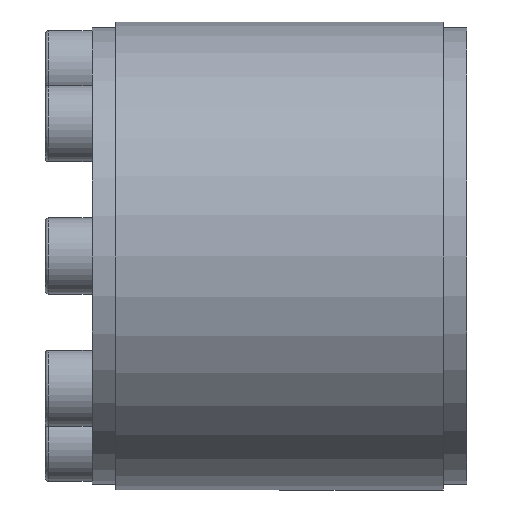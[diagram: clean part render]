
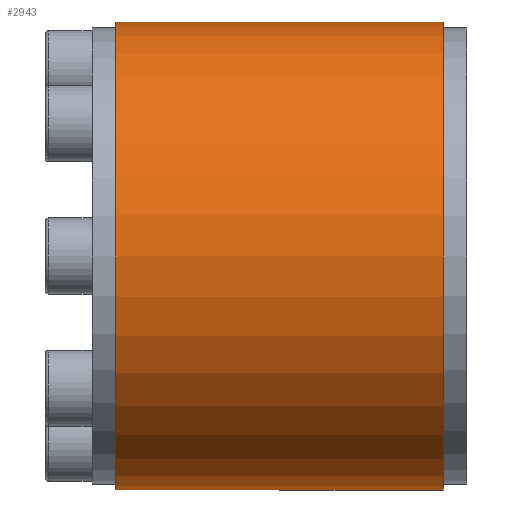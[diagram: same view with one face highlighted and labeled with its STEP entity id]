
A CAD part, left-side view. The second image highlights one B-rep face of the part: STEP entity #2943.
In plain terms, the highlighted cylindrical face has radius 40 mm (diameter 80 mm), a partial arc.
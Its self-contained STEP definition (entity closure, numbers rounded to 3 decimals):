
#12 = DIRECTION ( 'NONE',  ( 0., 0., -1. ) ) ;
#103 = DIRECTION ( 'NONE',  ( 0., -1., 0. ) ) ;
#121 = AXIS2_PLACEMENT_3D ( 'NONE', #610, #103, #2196 ) ;
#202 = ORIENTED_EDGE ( 'NONE', *, *, #903, .F. ) ;
#248 = CARTESIAN_POINT ( 'NONE',  ( 0., 0., 0. ) ) ;
#610 = CARTESIAN_POINT ( 'NONE',  ( 0., 28., 0. ) ) ;
#738 = DIRECTION ( 'NONE',  ( 0., -1., 0. ) ) ;
#787 = DIRECTION ( 'NONE',  ( 0., -1., 0. ) ) ;
#821 = ORIENTED_EDGE ( 'NONE', *, *, #2017, .T. ) ;
#903 = EDGE_CURVE ( 'NONE', #1761, #2764, #1805, .T. ) ;
#1222 = ORIENTED_EDGE ( 'NONE', *, *, #1273, .F. ) ;
#1273 = EDGE_CURVE ( 'NONE', #1825, #1761, #2605, .T. ) ;
#1332 = CARTESIAN_POINT ( 'NONE',  ( 0., 28., 40. ) ) ;
#1487 = DIRECTION ( 'NONE',  ( 0., -1., 0. ) ) ;
#1677 = CARTESIAN_POINT ( 'NONE',  ( 0., 28., -40. ) ) ;
#1698 = EDGE_CURVE ( 'NONE', #1825, #3046, #3055, .T. ) ;
#1761 = VERTEX_POINT ( 'NONE', #3038 ) ;
#1805 = CIRCLE ( 'NONE', #2284, 40. ) ;
#1825 = VERTEX_POINT ( 'NONE', #1332 ) ;
#1851 = FACE_OUTER_BOUND ( 'NONE', #3042, .T. ) ;
#1934 = DIRECTION ( 'NONE',  ( 0., 0., -1. ) ) ;
#1936 = CARTESIAN_POINT ( 'NONE',  ( 0., 0., -40. ) ) ;
#1989 = CARTESIAN_POINT ( 'NONE',  ( 0., -28., 0. ) ) ;
#2009 = VECTOR ( 'NONE', #2235, 1000. ) ;
#2017 = EDGE_CURVE ( 'NONE', #3046, #2764, #2601, .T. ) ;
#2196 = DIRECTION ( 'NONE',  ( 0., 0., -1. ) ) ;
#2200 = CARTESIAN_POINT ( 'NONE',  ( 0., 0., 40. ) ) ;
#2235 = DIRECTION ( 'NONE',  ( 0., -1., 0. ) ) ;
#2284 = AXIS2_PLACEMENT_3D ( 'NONE', #1989, #787, #12 ) ;
#2312 = AXIS2_PLACEMENT_3D ( 'NONE', #248, #1487, #1934 ) ;
#2340 = CYLINDRICAL_SURFACE ( 'NONE', #2312, 40. ) ;
#2487 = CARTESIAN_POINT ( 'NONE',  ( 0., -28., -40. ) ) ;
#2566 = VECTOR ( 'NONE', #738, 1000. ) ;
#2601 = LINE ( 'NONE', #1936, #2566 ) ;
#2605 = LINE ( 'NONE', #2200, #2009 ) ;
#2764 = VERTEX_POINT ( 'NONE', #2487 ) ;
#2943 = ADVANCED_FACE ( 'NONE', ( #1851 ), #2340, .T. ) ;
#2960 = ORIENTED_EDGE ( 'NONE', *, *, #1698, .T. ) ;
#3038 = CARTESIAN_POINT ( 'NONE',  ( 0., -28., 40. ) ) ;
#3042 = EDGE_LOOP ( 'NONE', ( #1222, #2960, #821, #202 ) ) ;
#3046 = VERTEX_POINT ( 'NONE', #1677 ) ;
#3055 = CIRCLE ( 'NONE', #121, 40. ) ;
